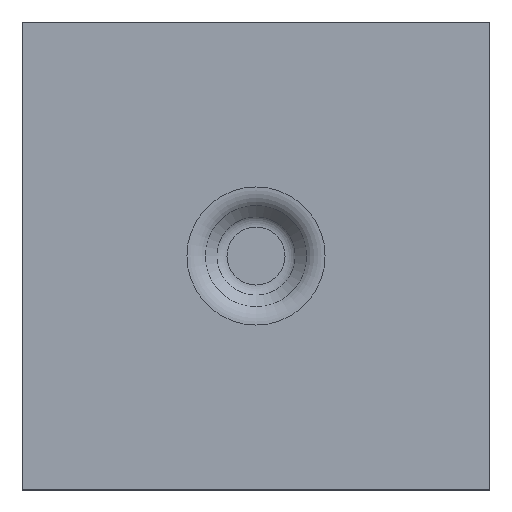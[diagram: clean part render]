
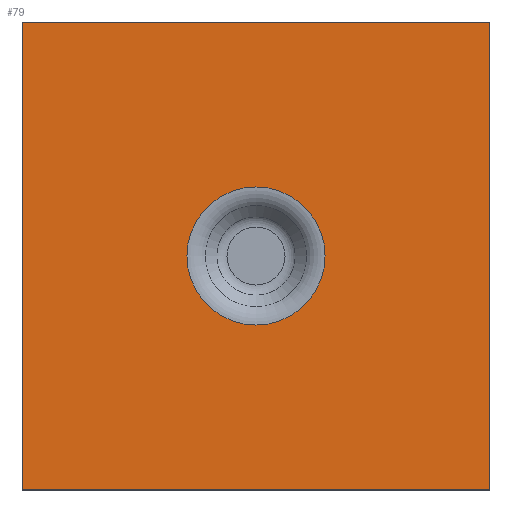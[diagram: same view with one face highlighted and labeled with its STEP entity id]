
A CAD part, top view. The second image highlights one B-rep face of the part: STEP entity #79.
In plain terms, the highlighted planar face has unit normal (0, 0, 1).
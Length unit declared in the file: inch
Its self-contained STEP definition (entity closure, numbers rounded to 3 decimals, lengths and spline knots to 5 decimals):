
#79=ADVANCED_FACE('',(#101,#102),#103,.T.);
#101=FACE_OUTER_BOUND('',#137,.T.);
#102=FACE_BOUND('',#138,.T.);
#103=PLANE('',#139);
#137=EDGE_LOOP('',(#181,#182,#183,#184));
#138=EDGE_LOOP('',(#185));
#139=AXIS2_PLACEMENT_3D('',#186,#187,#188);
#181=ORIENTED_EDGE('',*,*,#248,.T.);
#182=ORIENTED_EDGE('',*,*,#249,.T.);
#183=ORIENTED_EDGE('',*,*,#250,.T.);
#184=ORIENTED_EDGE('',*,*,#251,.T.);
#185=ORIENTED_EDGE('',*,*,#244,.F.);
#186=CARTESIAN_POINT('',(-1.24065,-0.51097,0.048));
#187=DIRECTION('',(0.0,0.0,1.0));
#188=DIRECTION('',(1.0,0.0,0.0));
#244=EDGE_CURVE('',#264,#264,#265,.T.);
#248=EDGE_CURVE('',#272,#273,#274,.F.);
#249=EDGE_CURVE('',#273,#275,#276,.F.);
#250=EDGE_CURVE('',#275,#277,#278,.F.);
#251=EDGE_CURVE('',#277,#272,#279,.F.);
#264=VERTEX_POINT('',#300);
#265=CIRCLE('',#301,0.29523);
#272=VERTEX_POINT('',#308);
#273=VERTEX_POINT('',#309);
#274=LINE('',#310,#311);
#275=VERTEX_POINT('',#312);
#276=LINE('',#313,#314);
#277=VERTEX_POINT('',#315);
#278=LINE('',#316,#317);
#279=LINE('',#318,#319);
#300=CARTESIAN_POINT('',(-0.94543,-0.51097,0.048));
#301=AXIS2_PLACEMENT_3D('',#348,#349,#350);
#308=CARTESIAN_POINT('',(-0.24065,-1.51097,0.048));
#309=CARTESIAN_POINT('',(-0.24065,0.48903,0.048));
#310=CARTESIAN_POINT('',(-0.24065,-0.51097,0.048));
#311=VECTOR('',#360,1.0);
#312=CARTESIAN_POINT('',(-2.24065,0.48903,0.048));
#313=CARTESIAN_POINT('',(-1.24065,0.48903,0.048));
#314=VECTOR('',#361,1.0);
#315=CARTESIAN_POINT('',(-2.24065,-1.51097,0.048));
#316=CARTESIAN_POINT('',(-2.24065,-0.51097,0.048));
#317=VECTOR('',#362,1.0);
#318=CARTESIAN_POINT('',(-1.24065,-1.51097,0.048));
#319=VECTOR('',#363,1.0);
#348=CARTESIAN_POINT('',(-1.24065,-0.51097,0.048));
#349=DIRECTION('',(0.0,0.0,1.0));
#350=DIRECTION('',(1.0,0.0,0.0));
#360=DIRECTION('',(0.0,-1.0,0.0));
#361=DIRECTION('',(1.0,0.0,0.0));
#362=DIRECTION('',(0.0,1.0,0.0));
#363=DIRECTION('',(-1.0,0.0,0.0));
